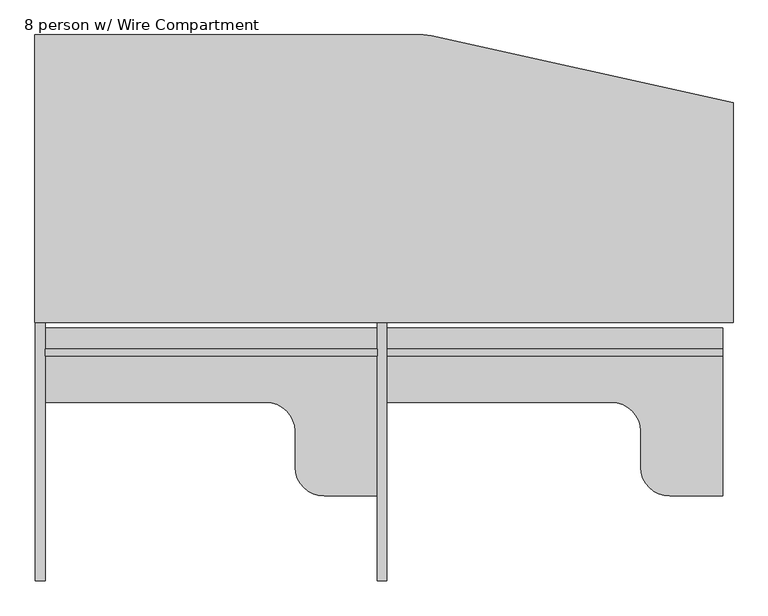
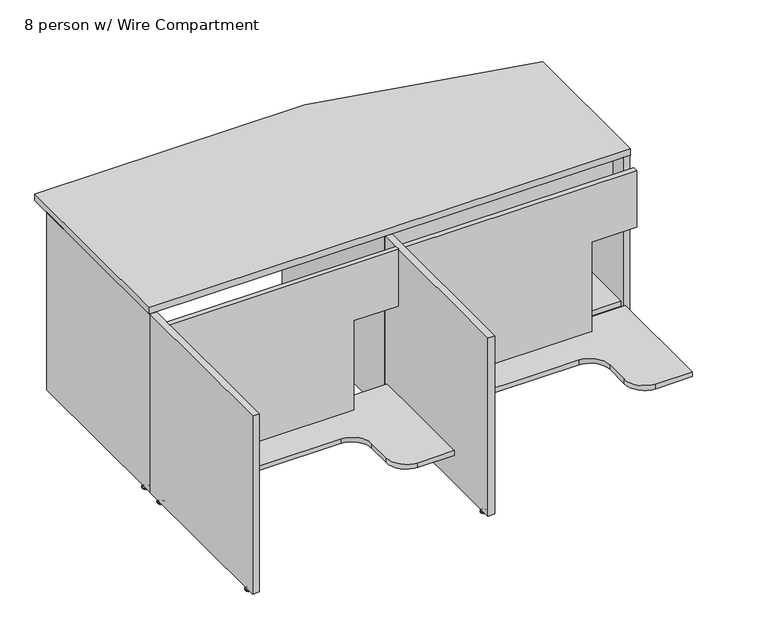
"""IFC4 building model written with IfcOpenShell, lengths in millimetres: furniture geometry, Nova Solutions - Collaboration Table - Boat_6-8 person : 8 person w/ Wire Compartment."""

from ifc_helpers import new_model, si_unit, point, frame, frame_2d, origin, place, context, project, spatial, polyline, circle_curve, ellipse_curve, trimmed, segment, composite_curve, outline, extrude, source, transform, mapped, element, save
from ifc_brep_helpers import plane_surface, cylinder_surface, revolved_surface, advanced_brep


def furniture_8_person_w_wire_compartment_190e666a(model_context):
    return source(origin(), model_context, "Body", "SolidModel", [
        advanced_brep(
        [(-906.7036506, 50.4140625, 11.1125), (-893.3483494, 50.4140625, 11.1125), (-900.026, 50.4140625, 11.1125), (-906.7036506, 50.4140625, 9.525), (-893.3483494, 50.4140625, 9.525), (-911.9115135, 50.4140625, 4.7748687), (-888.1404865, 50.4140625, 4.7748687), (-912.7726506, 50.4140625, 3.989419), (-887.2793494, 50.4140625, 3.989419), (-912.7726506, 50.4140625, 3.175), (-887.2793494, 50.4140625, 3.175), (-911.9219119, 50.4140625, 0.0), (-888.1300881, 50.4140625, 0.0), (-900.026, 50.4140625, 0.0)],
        [
            (0, 1, circle_curve(frame((-900.026, 50.4140625, 11.1125), z_axis=(0.0, 0.0, 1.0), x_axis=(1.0, 0.0, 0.0)), 6.6776506)),
            (1, 2),
            (2, 0),
            (1, 0, circle_curve(frame((-900.026, 50.4140625, 11.1125), z_axis=(0.0, 0.0, 1.0), x_axis=(1.0, 0.0, 0.0)), 6.6776506)),
            (3, 4, circle_curve(frame((-900.026, 50.4140625, 9.525), z_axis=(0.0, 0.0, 1.0), x_axis=(1.0, 0.0, 0.0)), 6.6776506)),
            (4, 1),
            (0, 3),
            (4, 3, circle_curve(frame((-900.026, 50.4140625, 9.525), z_axis=(0.0, 0.0, 1.0), x_axis=(1.0, 0.0, 0.0)), 6.6776506)),
            (5, 6, circle_curve(frame((-900.026, 50.4140625, 4.7748687), z_axis=(0.0, 0.0, 1.0), x_axis=(1.0, 0.0, 0.0)), 11.8855135)),
            (6, 4, circle_curve(frame((-887.0939373, 50.4140625, 11.1521822), z_axis=(0.0, 1.0, 0.0), x_axis=(-1.0, 0.0, 0.0)), 6.462615)),
            (3, 5, circle_curve(frame((-912.9580627, 50.4140625, 11.1521822), z_axis=(0.0, 1.0, 0.0), x_axis=(1.0, 0.0, 0.0)), 6.462615)),
            (6, 5, circle_curve(frame((-900.026, 50.4140625, 4.7748687), z_axis=(0.0, 0.0, 1.0), x_axis=(1.0, 0.0, 0.0)), 11.8855135)),
            (7, 8, circle_curve(frame((-900.026, 50.4140625, 3.989419), z_axis=(0.0, 0.0, 1.0), x_axis=(1.0, 0.0, 0.0)), 12.7466506)),
            (8, 6, circle_curve(frame((-888.3135368, 50.4140625, 3.7203591), z_axis=(0.0, -1.0, 0.0), x_axis=(-1.0, 0.0, 0.0)), 1.0686145)),
            (5, 7, circle_curve(frame((-911.7384632, 50.4140625, 3.7203591), z_axis=(0.0, -1.0, 0.0), x_axis=(1.0, 0.0, 0.0)), 1.0686145)),
            (8, 7, circle_curve(frame((-900.026, 50.4140625, 3.989419), z_axis=(0.0, 0.0, 1.0), x_axis=(1.0, 0.0, 0.0)), 12.7466506)),
            (9, 10, circle_curve(frame((-900.026, 50.4140625, 3.175), z_axis=(0.0, 0.0, 1.0), x_axis=(1.0, 0.0, 0.0)), 12.7466506)),
            (10, 8),
            (7, 9),
            (10, 9, circle_curve(frame((-900.026, 50.4140625, 3.175), z_axis=(0.0, 0.0, 1.0), x_axis=(1.0, 0.0, 0.0)), 12.7466506)),
            (11, 12, circle_curve(frame((-900.026, 50.4140625, 0.0), z_axis=(0.0, 0.0, 1.0), x_axis=(1.0, 0.0, 0.0)), 11.8959119)),
            (12, 10),
            (9, 11),
            (12, 11, circle_curve(frame((-900.026, 50.4140625, 0.0), z_axis=(0.0, 0.0, 1.0), x_axis=(1.0, 0.0, 0.0)), 11.8959119)),
            (13, 12),
            (11, 13),
        ],
        [
            plane_surface(frame((-900.026, 50.4140625, 11.1125), z_axis=(0.0, 0.0, 1.0), x_axis=(1.0, 0.0, 0.0))),
            cylinder_surface(frame((-900.026, 50.4140625, 43.2095994), z_axis=(0.0, 0.0, -1.0), x_axis=(1.0, 0.0, 0.0)), 6.6776506),
            revolved_surface(trimmed(ellipse_curve(frame((-887.0939373, 50.4140625, 11.1521822), z_axis=(0.0, -1.0, 0.0), x_axis=(-1.0, 0.0, 0.0)), 6.462615, 6.462615), [point((-893.3483494, 50.4140625, 9.525))], [point((-888.1404865, 50.4140625, 4.7748687))], True, "CARTESIAN"), (-900.026, 50.4140625, 43.2095994), (0.0, 0.0, -1.0)),
            revolved_surface(trimmed(ellipse_curve(frame((-888.3135368, 50.4140625, 3.7203591), z_axis=(0.0, 1.0, 0.0), x_axis=(-1.0, 0.0, 0.0)), 1.0686145, 1.0686145), [point((-888.1404865, 50.4140625, 4.7748687))], [point((-887.2793494, 50.4140625, 3.989419))], True, "CARTESIAN"), (-900.026, 50.4140625, 43.2095994), (0.0, 0.0, -1.0)),
            cylinder_surface(frame((-900.026, 50.4140625, 43.2095994), z_axis=(0.0, 0.0, -1.0), x_axis=(1.0, 0.0, 0.0)), 12.7466506),
            revolved_surface(polyline([(-887.2793494, 50.4140625, 3.175), (-888.1300881, 50.4140625, 0.0)]), (-900.026, 50.4140625, 43.2095994), (0.0, 0.0, -1.0)),
            plane_surface(frame((-900.026, 50.4140625, 0.0), z_axis=(0.0, 0.0, -1.0), x_axis=(1.0, 0.0, 0.0))),
        ],
        [
            (0, [[1, 2, 3]]),
            (0, [[4, -3, -2]]),
            (1, [[5, 6, -1, 7]]),
            (1, [[8, -7, -4, -6]]),
            (2, [[9, 10, -5, 11]]),
            (2, [[12, -11, -8, -10]]),
            (3, [[13, 14, -9, 15]]),
            (3, [[16, -15, -12, -14]]),
            (4, [[17, 18, -13, 19]]),
            (4, [[20, -19, -16, -18]]),
            (5, [[21, 22, -17, 23]]),
            (5, [[24, -23, -20, -22]]),
            (6, [[25, -21, 26]]),
            (6, [[-26, -24, -25]]),
        ],
    ),
        extrude(outline(polyline([(-912.876, 1.4), (-912.876, 680.4), (-887.176, 680.4), (-887.176, 1.4), (-912.876, 1.4)])), frame((0.0, 0.0, 15.6), z_axis=(0.0, 0.0, 1.0), x_axis=(1.0, 0.0, 0.0)), (0.0, 0.0, 1.0), 720.7),
        advanced_brep(
        [(6.6776506, 631.3859375, 11.1125), (0.0, 631.3859375, 11.1125), (-6.6776506, 631.3859375, 11.1125), (6.6776506, 631.3859375, 9.525), (-6.6776506, 631.3859375, 9.525), (11.8855135, 631.3859375, 4.7748687), (-11.8855135, 631.3859375, 4.7748687), (12.7466506, 631.3859375, 3.989419), (-12.7466506, 631.3859375, 3.989419), (12.7466506, 631.3859375, 3.175), (-12.7466506, 631.3859375, 3.175), (11.8959119, 631.3859375, 0.0), (-11.8959119, 631.3859375, 0.0), (0.0, 631.3859375, 0.0)],
        [
            (0, 1),
            (1, 2),
            (2, 0, circle_curve(frame((0.0, 631.3859375, 11.1125), z_axis=(0.0, 0.0, 1.0), x_axis=(-1.0, 0.0, 0.0)), 6.6776506)),
            (0, 2, circle_curve(frame((0.0, 631.3859375, 11.1125), z_axis=(0.0, 0.0, 1.0), x_axis=(-1.0, 0.0, 0.0)), 6.6776506)),
            (3, 0),
            (2, 4),
            (4, 3, circle_curve(frame((0.0, 631.3859375, 9.525), z_axis=(0.0, 0.0, 1.0), x_axis=(-1.0, 0.0, 0.0)), 6.6776506)),
            (3, 4, circle_curve(frame((0.0, 631.3859375, 9.525), z_axis=(0.0, 0.0, 1.0), x_axis=(-1.0, 0.0, 0.0)), 6.6776506)),
            (5, 3, circle_curve(frame((12.9320627, 631.3859375, 11.1521822), z_axis=(0.0, 1.0, 0.0), x_axis=(-1.0, 0.0, 0.0)), 6.462615)),
            (4, 6, circle_curve(frame((-12.9320627, 631.3859375, 11.1521822), z_axis=(0.0, 1.0, 0.0), x_axis=(1.0, 0.0, 0.0)), 6.462615)),
            (6, 5, circle_curve(frame((0.0, 631.3859375, 4.7748687), z_axis=(0.0, 0.0, 1.0), x_axis=(-1.0, 0.0, 0.0)), 11.8855135)),
            (5, 6, circle_curve(frame((0.0, 631.3859375, 4.7748687), z_axis=(0.0, 0.0, 1.0), x_axis=(-1.0, 0.0, 0.0)), 11.8855135)),
            (7, 5, circle_curve(frame((11.7124632, 631.3859375, 3.7203591), z_axis=(0.0, -1.0, 0.0), x_axis=(-1.0, 0.0, 0.0)), 1.0686145)),
            (6, 8, circle_curve(frame((-11.7124632, 631.3859375, 3.7203591), z_axis=(0.0, -1.0, 0.0), x_axis=(1.0, 0.0, 0.0)), 1.0686145)),
            (8, 7, circle_curve(frame((0.0, 631.3859375, 3.989419), z_axis=(0.0, 0.0, 1.0), x_axis=(-1.0, 0.0, 0.0)), 12.7466506)),
            (7, 8, circle_curve(frame((0.0, 631.3859375, 3.989419), z_axis=(0.0, 0.0, 1.0), x_axis=(-1.0, 0.0, 0.0)), 12.7466506)),
            (9, 7),
            (8, 10),
            (10, 9, circle_curve(frame((0.0, 631.3859375, 3.175), z_axis=(0.0, 0.0, 1.0), x_axis=(-1.0, 0.0, 0.0)), 12.7466506)),
            (9, 10, circle_curve(frame((0.0, 631.3859375, 3.175), z_axis=(0.0, 0.0, 1.0), x_axis=(-1.0, 0.0, 0.0)), 12.7466506)),
            (11, 9),
            (10, 12),
            (12, 11, circle_curve(frame((0.0, 631.3859375, 0.0), z_axis=(0.0, 0.0, 1.0), x_axis=(-1.0, 0.0, 0.0)), 11.8959119)),
            (11, 12, circle_curve(frame((0.0, 631.3859375, 0.0), z_axis=(0.0, 0.0, 1.0), x_axis=(-1.0, 0.0, 0.0)), 11.8959119)),
            (13, 11),
            (12, 13),
        ],
        [
            plane_surface(frame((0.0, 631.3859375, 11.1125), z_axis=(0.0, 0.0, 1.0), x_axis=(-1.0, 0.0, 0.0))),
            cylinder_surface(frame((0.0, 631.3859375, 43.2095994), z_axis=(0.0, 0.0, -1.0), x_axis=(-1.0, 0.0, 0.0)), 6.6776506),
            revolved_surface(trimmed(ellipse_curve(frame((-12.9320627, 631.3859375, 11.1521822), z_axis=(0.0, 1.0, 0.0), x_axis=(1.0, 0.0, 0.0)), 6.462615, 6.462615), [point((-6.6776506, 631.3859375, 9.525))], [point((-11.8855135, 631.3859375, 4.7748687))], True, "CARTESIAN"), (0.0, 631.3859375, 43.2095994), (0.0, 0.0, -1.0)),
            revolved_surface(trimmed(ellipse_curve(frame((-11.7124632, 631.3859375, 3.7203591), z_axis=(0.0, -1.0, 0.0), x_axis=(1.0, 0.0, 0.0)), 1.0686145, 1.0686145), [point((-11.8855135, 631.3859375, 4.7748687))], [point((-12.7466506, 631.3859375, 3.989419))], True, "CARTESIAN"), (0.0, 631.3859375, 43.2095994), (0.0, 0.0, -1.0)),
            cylinder_surface(frame((0.0, 631.3859375, 43.2095994), z_axis=(0.0, 0.0, -1.0), x_axis=(-1.0, 0.0, 0.0)), 12.7466506),
            revolved_surface(polyline([(-12.7466506, 631.3859375, 3.175), (-11.8959119, 631.3859375, 0.0)]), (0.0, 631.3859375, 43.2095994), (0.0, 0.0, -1.0)),
            plane_surface(frame((0.0, 631.3859375, 0.0), z_axis=(0.0, 0.0, -1.0), x_axis=(-1.0, 0.0, 0.0))),
        ],
        [
            (0, [[1, 2, 3]]),
            (0, [[-2, -1, 4]]),
            (1, [[5, -3, 6, 7]]),
            (1, [[-6, -4, -5, 8]]),
            (2, [[9, -7, 10, 11]]),
            (2, [[-10, -8, -9, 12]]),
            (3, [[13, -11, 14, 15]]),
            (3, [[-14, -12, -13, 16]]),
            (4, [[17, -15, 18, 19]]),
            (4, [[-18, -16, -17, 20]]),
            (5, [[21, -19, 22, 23]]),
            (5, [[-22, -20, -21, 24]]),
            (6, [[25, -23, 26]]),
            (6, [[-26, -24, -25]]),
        ],
    ),
        advanced_brep(
        [(6.6776506, 50.4140625, 11.1125), (0.0, 50.4140625, 11.1125), (-6.6776506, 50.4140625, 11.1125), (6.6776506, 50.4140625, 9.525), (-6.6776506, 50.4140625, 9.525), (11.8855135, 50.4140625, 4.7748687), (-11.8855135, 50.4140625, 4.7748687), (12.7466506, 50.4140625, 3.989419), (-12.7466506, 50.4140625, 3.989419), (12.7466506, 50.4140625, 3.175), (-12.7466506, 50.4140625, 3.175), (11.8959119, 50.4140625, 0.0), (-11.8959119, 50.4140625, 0.0), (0.0, 50.4140625, 0.0)],
        [
            (0, 1),
            (1, 2),
            (2, 0, circle_curve(frame((0.0, 50.4140625, 11.1125), z_axis=(0.0, 0.0, 1.0), x_axis=(-1.0, 0.0, 0.0)), 6.6776506)),
            (0, 2, circle_curve(frame((0.0, 50.4140625, 11.1125), z_axis=(0.0, 0.0, 1.0), x_axis=(-1.0, 0.0, 0.0)), 6.6776506)),
            (3, 0),
            (2, 4),
            (4, 3, circle_curve(frame((0.0, 50.4140625, 9.525), z_axis=(0.0, 0.0, 1.0), x_axis=(-1.0, 0.0, 0.0)), 6.6776506)),
            (3, 4, circle_curve(frame((0.0, 50.4140625, 9.525), z_axis=(0.0, 0.0, 1.0), x_axis=(-1.0, 0.0, 0.0)), 6.6776506)),
            (5, 3, circle_curve(frame((12.9320627, 50.4140625, 11.1521822), z_axis=(0.0, 1.0, 0.0), x_axis=(-1.0, 0.0, 0.0)), 6.462615)),
            (4, 6, circle_curve(frame((-12.9320627, 50.4140625, 11.1521822), z_axis=(0.0, 1.0, 0.0), x_axis=(1.0, 0.0, 0.0)), 6.462615)),
            (6, 5, circle_curve(frame((0.0, 50.4140625, 4.7748687), z_axis=(0.0, 0.0, 1.0), x_axis=(-1.0, 0.0, 0.0)), 11.8855135)),
            (5, 6, circle_curve(frame((0.0, 50.4140625, 4.7748687), z_axis=(0.0, 0.0, 1.0), x_axis=(-1.0, 0.0, 0.0)), 11.8855135)),
            (7, 5, circle_curve(frame((11.7124632, 50.4140625, 3.7203591), z_axis=(0.0, -1.0, 0.0), x_axis=(-1.0, 0.0, 0.0)), 1.0686145)),
            (6, 8, circle_curve(frame((-11.7124632, 50.4140625, 3.7203591), z_axis=(0.0, -1.0, 0.0), x_axis=(1.0, 0.0, 0.0)), 1.0686145)),
            (8, 7, circle_curve(frame((0.0, 50.4140625, 3.989419), z_axis=(0.0, 0.0, 1.0), x_axis=(-1.0, 0.0, 0.0)), 12.7466506)),
            (7, 8, circle_curve(frame((0.0, 50.4140625, 3.989419), z_axis=(0.0, 0.0, 1.0), x_axis=(-1.0, 0.0, 0.0)), 12.7466506)),
            (9, 7),
            (8, 10),
            (10, 9, circle_curve(frame((0.0, 50.4140625, 3.175), z_axis=(0.0, 0.0, 1.0), x_axis=(-1.0, 0.0, 0.0)), 12.7466506)),
            (9, 10, circle_curve(frame((0.0, 50.4140625, 3.175), z_axis=(0.0, 0.0, 1.0), x_axis=(-1.0, 0.0, 0.0)), 12.7466506)),
            (11, 9),
            (10, 12),
            (12, 11, circle_curve(frame((0.0, 50.4140625, 0.0), z_axis=(0.0, 0.0, 1.0), x_axis=(-1.0, 0.0, 0.0)), 11.8959119)),
            (11, 12, circle_curve(frame((0.0, 50.4140625, 0.0), z_axis=(0.0, 0.0, 1.0), x_axis=(-1.0, 0.0, 0.0)), 11.8959119)),
            (13, 11),
            (12, 13),
        ],
        [
            plane_surface(frame((0.0, 50.4140625, 11.1125), z_axis=(0.0, 0.0, 1.0), x_axis=(-1.0, 0.0, 0.0))),
            cylinder_surface(frame((0.0, 50.4140625, 43.2095994), z_axis=(0.0, 0.0, -1.0), x_axis=(-1.0, 0.0, 0.0)), 6.6776506),
            revolved_surface(trimmed(ellipse_curve(frame((-12.9320627, 50.4140625, 11.1521822), z_axis=(0.0, 1.0, 0.0), x_axis=(1.0, 0.0, 0.0)), 6.462615, 6.462615), [point((-6.6776506, 50.4140625, 9.525))], [point((-11.8855135, 50.4140625, 4.7748687))], True, "CARTESIAN"), (0.0, 50.4140625, 43.2095994), (0.0, 0.0, -1.0)),
            revolved_surface(trimmed(ellipse_curve(frame((-11.7124632, 50.4140625, 3.7203591), z_axis=(0.0, -1.0, 0.0), x_axis=(1.0, 0.0, 0.0)), 1.0686145, 1.0686145), [point((-11.8855135, 50.4140625, 4.7748687))], [point((-12.7466506, 50.4140625, 3.989419))], True, "CARTESIAN"), (0.0, 50.4140625, 43.2095994), (0.0, 0.0, -1.0)),
            cylinder_surface(frame((0.0, 50.4140625, 43.2095994), z_axis=(0.0, 0.0, -1.0), x_axis=(-1.0, 0.0, 0.0)), 12.7466506),
            revolved_surface(polyline([(-12.7466506, 50.4140625, 3.175), (-11.8959119, 50.4140625, 0.0)]), (0.0, 50.4140625, 43.2095994), (0.0, 0.0, -1.0)),
            plane_surface(frame((0.0, 50.4140625, 0.0), z_axis=(0.0, 0.0, -1.0), x_axis=(-1.0, 0.0, 0.0))),
        ],
        [
            (0, [[1, 2, 3]]),
            (0, [[-2, -1, 4]]),
            (1, [[5, -3, 6, 7]]),
            (1, [[-6, -4, -5, 8]]),
            (2, [[9, -7, 10, 11]]),
            (2, [[-10, -8, -9, 12]]),
            (3, [[13, -11, 14, 15]]),
            (3, [[-14, -12, -13, 16]]),
            (4, [[17, -15, 18, 19]]),
            (4, [[-18, -16, -17, 20]]),
            (5, [[21, -19, 22, 23]]),
            (5, [[-22, -20, -21, 24]]),
            (6, [[25, -23, 26]]),
            (6, [[-26, -24, -25]]),
        ],
    ),
        extrude(outline(polyline([(12.85, 1.4), (-12.85, 1.4), (-12.85, 680.4), (12.85, 680.4), (12.85, 1.4)])), frame((0.0, 0.0, 15.6), z_axis=(0.0, 0.0, 1.0), x_axis=(1.0, 0.0, 0.0)), (0.0, 0.0, 1.0), 720.7),
        extrude(outline(polyline([(736.3, 12.85), (145.5, 12.85), (145.5, 726.15), (507.4, 726.15), (507.4, 897.15), (736.3, 897.15), (736.3, 12.85)])), frame((0.0, 69.4, 0.0), z_axis=(0.0, 1.0, 0.0), x_axis=(0.0, 0.0, 1.0)), (0.0, 0.0, 1.0), 19.2),
        extrude(outline(composite_curve([segment(polyline([(897.15, 457.2625), (897.15, 14.1), (12.85, 14.1), (12.85, 210.4), (604.95, 210.4)]), True, "CONTINUOUS"), segment(trimmed(circle_curve(frame_2d((604.95, 286.6)), 76.2), [point((604.95, 210.4))], [point((681.15, 286.6))], True, "CARTESIAN"), True, "CONTINUOUS"), segment(polyline([(681.15, 286.6), (681.15, 381.0625)]), True, "CONTINUOUS"), segment(trimmed(circle_curve(frame_2d((757.35, 381.0625)), 76.2), [point((681.15, 381.0625))], [point((757.35, 457.2625))], False, "CARTESIAN"), True, "CONTINUOUS"), segment(polyline([(757.35, 457.2625), (897.15, 457.2625)]), True, "CONTINUOUS")], self_intersect=False)), frame((0.0, 0.0, 126.3), z_axis=(0.0, 0.0, 1.0), x_axis=(1.0, 0.0, 0.0)), (0.0, 0.0, 1.0), 19.2),
        advanced_brep(
        [(916.6776506, 448.9859375, 11.1125), (910.0, 448.9859375, 11.1125), (903.3223494, 448.9859375, 11.1125), (916.6776506, 448.9859375, 9.525), (903.3223494, 448.9859375, 9.525), (921.8855135, 448.9859375, 4.7748687), (898.1144865, 448.9859375, 4.7748687), (922.7466506, 448.9859375, 3.989419), (897.2533494, 448.9859375, 3.989419), (922.7466506, 448.9859375, 3.175), (897.2533494, 448.9859375, 3.175), (921.8959119, 448.9859375, 0.0), (898.1040881, 448.9859375, 0.0), (910.0, 448.9859375, 0.0)],
        [
            (0, 1),
            (1, 2),
            (2, 0, circle_curve(frame((910.0, 448.9859375, 11.1125), z_axis=(0.0, 0.0, 1.0), x_axis=(-1.0, 0.0, 0.0)), 6.6776506)),
            (0, 2, circle_curve(frame((910.0, 448.9859375, 11.1125), z_axis=(0.0, 0.0, 1.0), x_axis=(-1.0, 0.0, 0.0)), 6.6776506)),
            (3, 0),
            (2, 4),
            (4, 3, circle_curve(frame((910.0, 448.9859375, 9.525), z_axis=(0.0, 0.0, 1.0), x_axis=(-1.0, 0.0, 0.0)), 6.6776506)),
            (3, 4, circle_curve(frame((910.0, 448.9859375, 9.525), z_axis=(0.0, 0.0, 1.0), x_axis=(-1.0, 0.0, 0.0)), 6.6776506)),
            (5, 3, circle_curve(frame((922.9320627, 448.9859375, 11.1521822), z_axis=(0.0, 1.0, 0.0), x_axis=(-1.0, 0.0, 0.0)), 6.462615)),
            (4, 6, circle_curve(frame((897.0679373, 448.9859375, 11.1521822), z_axis=(0.0, 1.0, 0.0), x_axis=(1.0, 0.0, 0.0)), 6.462615)),
            (6, 5, circle_curve(frame((910.0, 448.9859375, 4.7748687), z_axis=(0.0, 0.0, 1.0), x_axis=(-1.0, 0.0, 0.0)), 11.8855135)),
            (5, 6, circle_curve(frame((910.0, 448.9859375, 4.7748687), z_axis=(0.0, 0.0, 1.0), x_axis=(-1.0, 0.0, 0.0)), 11.8855135)),
            (7, 5, circle_curve(frame((921.7124632, 448.9859375, 3.7203591), z_axis=(0.0, -1.0, 0.0), x_axis=(-1.0, 0.0, 0.0)), 1.0686145)),
            (6, 8, circle_curve(frame((898.2875368, 448.9859375, 3.7203591), z_axis=(0.0, -1.0, 0.0), x_axis=(1.0, 0.0, 0.0)), 1.0686145)),
            (8, 7, circle_curve(frame((910.0, 448.9859375, 3.989419), z_axis=(0.0, 0.0, 1.0), x_axis=(-1.0, 0.0, 0.0)), 12.7466506)),
            (7, 8, circle_curve(frame((910.0, 448.9859375, 3.989419), z_axis=(0.0, 0.0, 1.0), x_axis=(-1.0, 0.0, 0.0)), 12.7466506)),
            (9, 7),
            (8, 10),
            (10, 9, circle_curve(frame((910.0, 448.9859375, 3.175), z_axis=(0.0, 0.0, 1.0), x_axis=(-1.0, 0.0, 0.0)), 12.7466506)),
            (9, 10, circle_curve(frame((910.0, 448.9859375, 3.175), z_axis=(0.0, 0.0, 1.0), x_axis=(-1.0, 0.0, 0.0)), 12.7466506)),
            (11, 9),
            (10, 12),
            (12, 11, circle_curve(frame((910.0, 448.9859375, 0.0), z_axis=(0.0, 0.0, 1.0), x_axis=(-1.0, 0.0, 0.0)), 11.8959119)),
            (11, 12, circle_curve(frame((910.0, 448.9859375, 0.0), z_axis=(0.0, 0.0, 1.0), x_axis=(-1.0, 0.0, 0.0)), 11.8959119)),
            (13, 11),
            (12, 13),
        ],
        [
            plane_surface(frame((910.0, 448.9859375, 11.1125), z_axis=(0.0, 0.0, 1.0), x_axis=(-1.0, 0.0, 0.0))),
            cylinder_surface(frame((910.0, 448.9859375, 43.2095994), z_axis=(0.0, 0.0, -1.0), x_axis=(-1.0, 0.0, 0.0)), 6.6776506),
            revolved_surface(trimmed(ellipse_curve(frame((897.0679373, 448.9859375, 11.1521822), z_axis=(0.0, 1.0, 0.0), x_axis=(1.0, 0.0, 0.0)), 6.462615, 6.462615), [point((903.3223494, 448.9859375, 9.525))], [point((898.1144865, 448.9859375, 4.7748687))], True, "CARTESIAN"), (910.0, 448.9859375, 43.2095994), (0.0, 0.0, -1.0)),
            revolved_surface(trimmed(ellipse_curve(frame((898.2875368, 448.9859375, 3.7203591), z_axis=(0.0, -1.0, 0.0), x_axis=(1.0, 0.0, 0.0)), 1.0686145, 1.0686145), [point((898.1144865, 448.9859375, 4.7748687))], [point((897.2533494, 448.9859375, 3.989419))], True, "CARTESIAN"), (910.0, 448.9859375, 43.2095994), (0.0, 0.0, -1.0)),
            cylinder_surface(frame((910.0, 448.9859375, 43.2095994), z_axis=(0.0, 0.0, -1.0), x_axis=(-1.0, 0.0, 0.0)), 12.7466506),
            revolved_surface(polyline([(897.2533494, 448.9859375, 3.175), (898.1040881, 448.9859375, 0.0)]), (910.0, 448.9859375, 43.2095994), (0.0, 0.0, -1.0)),
            plane_surface(frame((910.0, 448.9859375, 0.0), z_axis=(0.0, 0.0, -1.0), x_axis=(-1.0, 0.0, 0.0))),
        ],
        [
            (0, [[1, 2, 3]]),
            (0, [[-2, -1, 4]]),
            (1, [[5, -3, 6, 7]]),
            (1, [[-6, -4, -5, 8]]),
            (2, [[9, -7, 10, 11]]),
            (2, [[-10, -8, -9, 12]]),
            (3, [[13, -11, 14, 15]]),
            (3, [[-14, -12, -13, 16]]),
            (4, [[17, -15, 18, 19]]),
            (4, [[-18, -16, -17, 20]]),
            (5, [[21, -19, 22, 23]]),
            (5, [[-22, -20, -21, 24]]),
            (6, [[25, -23, 26]]),
            (6, [[-26, -24, -25]]),
        ],
    ),
        advanced_brep(
        [(916.6776506, 50.4140625, 11.1125), (910.0, 50.4140625, 11.1125), (903.3223494, 50.4140625, 11.1125), (916.6776506, 50.4140625, 9.525), (903.3223494, 50.4140625, 9.525), (921.8855135, 50.4140625, 4.7748687), (898.1144865, 50.4140625, 4.7748687), (922.7466506, 50.4140625, 3.989419), (897.2533494, 50.4140625, 3.989419), (922.7466506, 50.4140625, 3.175), (897.2533494, 50.4140625, 3.175), (921.8959119, 50.4140625, 0.0), (898.1040881, 50.4140625, 0.0), (910.0, 50.4140625, 0.0)],
        [
            (0, 1),
            (1, 2),
            (2, 0, circle_curve(frame((910.0, 50.4140625, 11.1125), z_axis=(0.0, 0.0, 1.0), x_axis=(-1.0, 0.0, 0.0)), 6.6776506)),
            (0, 2, circle_curve(frame((910.0, 50.4140625, 11.1125), z_axis=(0.0, 0.0, 1.0), x_axis=(-1.0, 0.0, 0.0)), 6.6776506)),
            (3, 0),
            (2, 4),
            (4, 3, circle_curve(frame((910.0, 50.4140625, 9.525), z_axis=(0.0, 0.0, 1.0), x_axis=(-1.0, 0.0, 0.0)), 6.6776506)),
            (3, 4, circle_curve(frame((910.0, 50.4140625, 9.525), z_axis=(0.0, 0.0, 1.0), x_axis=(-1.0, 0.0, 0.0)), 6.6776506)),
            (5, 3, circle_curve(frame((922.9320627, 50.4140625, 11.1521822), z_axis=(0.0, 1.0, 0.0), x_axis=(-1.0, 0.0, 0.0)), 6.462615)),
            (4, 6, circle_curve(frame((897.0679373, 50.4140625, 11.1521822), z_axis=(0.0, 1.0, 0.0), x_axis=(1.0, 0.0, 0.0)), 6.462615)),
            (6, 5, circle_curve(frame((910.0, 50.4140625, 4.7748687), z_axis=(0.0, 0.0, 1.0), x_axis=(-1.0, 0.0, 0.0)), 11.8855135)),
            (5, 6, circle_curve(frame((910.0, 50.4140625, 4.7748687), z_axis=(0.0, 0.0, 1.0), x_axis=(-1.0, 0.0, 0.0)), 11.8855135)),
            (7, 5, circle_curve(frame((921.7124632, 50.4140625, 3.7203591), z_axis=(0.0, -1.0, 0.0), x_axis=(-1.0, 0.0, 0.0)), 1.0686145)),
            (6, 8, circle_curve(frame((898.2875368, 50.4140625, 3.7203591), z_axis=(0.0, -1.0, 0.0), x_axis=(1.0, 0.0, 0.0)), 1.0686145)),
            (8, 7, circle_curve(frame((910.0, 50.4140625, 3.989419), z_axis=(0.0, 0.0, 1.0), x_axis=(-1.0, 0.0, 0.0)), 12.7466506)),
            (7, 8, circle_curve(frame((910.0, 50.4140625, 3.989419), z_axis=(0.0, 0.0, 1.0), x_axis=(-1.0, 0.0, 0.0)), 12.7466506)),
            (9, 7),
            (8, 10),
            (10, 9, circle_curve(frame((910.0, 50.4140625, 3.175), z_axis=(0.0, 0.0, 1.0), x_axis=(-1.0, 0.0, 0.0)), 12.7466506)),
            (9, 10, circle_curve(frame((910.0, 50.4140625, 3.175), z_axis=(0.0, 0.0, 1.0), x_axis=(-1.0, 0.0, 0.0)), 12.7466506)),
            (11, 9),
            (10, 12),
            (12, 11, circle_curve(frame((910.0, 50.4140625, 0.0), z_axis=(0.0, 0.0, 1.0), x_axis=(-1.0, 0.0, 0.0)), 11.8959119)),
            (11, 12, circle_curve(frame((910.0, 50.4140625, 0.0), z_axis=(0.0, 0.0, 1.0), x_axis=(-1.0, 0.0, 0.0)), 11.8959119)),
            (13, 11),
            (12, 13),
        ],
        [
            plane_surface(frame((910.0, 50.4140625, 11.1125), z_axis=(0.0, 0.0, 1.0), x_axis=(-1.0, 0.0, 0.0))),
            cylinder_surface(frame((910.0, 50.4140625, 43.2095994), z_axis=(0.0, 0.0, -1.0), x_axis=(-1.0, 0.0, 0.0)), 6.6776506),
            revolved_surface(trimmed(ellipse_curve(frame((897.0679373, 50.4140625, 11.1521822), z_axis=(0.0, 1.0, 0.0), x_axis=(1.0, 0.0, 0.0)), 6.462615, 6.462615), [point((903.3223494, 50.4140625, 9.525))], [point((898.1144865, 50.4140625, 4.7748687))], True, "CARTESIAN"), (910.0, 50.4140625, 43.2095994), (0.0, 0.0, -1.0)),
            revolved_surface(trimmed(ellipse_curve(frame((898.2875368, 50.4140625, 3.7203591), z_axis=(0.0, -1.0, 0.0), x_axis=(1.0, 0.0, 0.0)), 1.0686145, 1.0686145), [point((898.1144865, 50.4140625, 4.7748687))], [point((897.2533494, 50.4140625, 3.989419))], True, "CARTESIAN"), (910.0, 50.4140625, 43.2095994), (0.0, 0.0, -1.0)),
            cylinder_surface(frame((910.0, 50.4140625, 43.2095994), z_axis=(0.0, 0.0, -1.0), x_axis=(-1.0, 0.0, 0.0)), 12.7466506),
            revolved_surface(polyline([(897.2533494, 50.4140625, 3.175), (898.1040881, 50.4140625, 0.0)]), (910.0, 50.4140625, 43.2095994), (0.0, 0.0, -1.0)),
            plane_surface(frame((910.0, 50.4140625, 0.0), z_axis=(0.0, 0.0, -1.0), x_axis=(-1.0, 0.0, 0.0))),
        ],
        [
            (0, [[1, 2, 3]]),
            (0, [[-2, -1, 4]]),
            (1, [[5, -3, 6, 7]]),
            (1, [[-6, -4, -5, 8]]),
            (2, [[9, -7, 10, 11]]),
            (2, [[-10, -8, -9, 12]]),
            (3, [[13, -11, 14, 15]]),
            (3, [[-14, -12, -13, 16]]),
            (4, [[17, -15, 18, 19]]),
            (4, [[-18, -16, -17, 20]]),
            (5, [[21, -19, 22, 23]]),
            (5, [[-22, -20, -21, 24]]),
            (6, [[25, -23, 26]]),
            (6, [[-26, -24, -25]]),
        ],
    ),
        extrude(outline(polyline([(922.85, 1.4), (897.15, 1.4), (897.15, 498.0), (922.85, 498.0), (922.85, 1.4)])), frame((0.0, 0.0, 15.6), z_axis=(0.0, 0.0, 1.0), x_axis=(1.0, 0.0, 0.0)), (0.0, 0.0, 1.0), 720.7),
        extrude(outline(composite_curve([segment(trimmed(circle_curve(frame_2d((108.0350272, 656.4)), 101.6), [point((108.0350272, 758.0))], [point((130.025292, 755.5916743))], False, "CARTESIAN"), True, "CONTINUOUS"), segment(polyline([(130.025292, 755.5916743), (924.25, 579.5162956), (924.25, 0.0), (-914.276, 0.0), (-914.276, 758.0), (108.0350272, 758.0)]), True, "CONTINUOUS")], self_intersect=False)), frame((0.0, 0.0, 736.3), z_axis=(0.0, 0.0, 1.0), x_axis=(1.0, 0.0, 0.0)), (0.0, 0.0, 1.0), 25.7),
        extrude(outline(polyline([(736.3, -887.176), (145.5, -887.176), (145.5, -183.85), (507.4, -183.85), (507.4, -12.85), (736.3, -12.85), (736.3, -887.176)])), frame((0.0, -88.6, 0.0), z_axis=(0.0, 1.0, 0.0), x_axis=(0.0, 0.0, 1.0)), (0.0, 0.0, 1.0), 19.2),
        extrude(outline(composite_curve([segment(polyline([(-887.176, -14.1), (-12.85, -14.1), (-12.85, -457.2625), (-152.65, -457.2625)]), True, "CONTINUOUS"), segment(trimmed(circle_curve(frame_2d((-152.65, -381.0625)), 76.2), [point((-152.65, -457.2625))], [point((-228.85, -381.0625))], False, "CARTESIAN"), True, "CONTINUOUS"), segment(polyline([(-228.85, -381.0625), (-228.85, -286.6)]), True, "CONTINUOUS"), segment(trimmed(circle_curve(frame_2d((-305.05, -286.6)), 76.2), [point((-228.85, -286.6))], [point((-305.05, -210.4))], True, "CARTESIAN"), True, "CONTINUOUS"), segment(polyline([(-305.05, -210.4), (-887.176, -210.4), (-887.176, -14.1)]), True, "CONTINUOUS")], self_intersect=False)), frame((0.0, 0.0, 126.3), z_axis=(0.0, 0.0, 1.0), x_axis=(1.0, 0.0, 0.0)), (0.0, 0.0, 1.0), 19.2),
        advanced_brep(
        [(-906.7036506, -631.3859375, 11.1125), (-900.026, -631.3859375, 11.1125), (-893.3483494, -631.3859375, 11.1125), (-906.7036506, -631.3859375, 9.525), (-893.3483494, -631.3859375, 9.525), (-911.9115135, -631.3859375, 4.7748687), (-888.1404865, -631.3859375, 4.7748687), (-912.7726506, -631.3859375, 3.989419), (-887.2793494, -631.3859375, 3.989419), (-912.7726506, -631.3859375, 3.175), (-887.2793494, -631.3859375, 3.175), (-911.9219119, -631.3859375, 0.0), (-888.1300881, -631.3859375, 0.0), (-900.026, -631.3859375, 0.0)],
        [
            (0, 1),
            (1, 2),
            (2, 0, circle_curve(frame((-900.026, -631.3859375, 11.1125), z_axis=(0.0, 0.0, 1.0), x_axis=(1.0, 0.0, 0.0)), 6.6776506)),
            (0, 2, circle_curve(frame((-900.026, -631.3859375, 11.1125), z_axis=(0.0, 0.0, 1.0), x_axis=(1.0, 0.0, 0.0)), 6.6776506)),
            (3, 0),
            (2, 4),
            (4, 3, circle_curve(frame((-900.026, -631.3859375, 9.525), z_axis=(0.0, 0.0, 1.0), x_axis=(1.0, 0.0, 0.0)), 6.6776506)),
            (3, 4, circle_curve(frame((-900.026, -631.3859375, 9.525), z_axis=(0.0, 0.0, 1.0), x_axis=(1.0, 0.0, 0.0)), 6.6776506)),
            (5, 3, circle_curve(frame((-912.9580627, -631.3859375, 11.1521822), z_axis=(0.0, -1.0, 0.0), x_axis=(1.0, 0.0, 0.0)), 6.462615)),
            (4, 6, circle_curve(frame((-887.0939373, -631.3859375, 11.1521822), z_axis=(0.0, -1.0, 0.0), x_axis=(-1.0, 0.0, 0.0)), 6.462615)),
            (6, 5, circle_curve(frame((-900.026, -631.3859375, 4.7748687), z_axis=(0.0, 0.0, 1.0), x_axis=(1.0, 0.0, 0.0)), 11.8855135)),
            (5, 6, circle_curve(frame((-900.026, -631.3859375, 4.7748687), z_axis=(0.0, 0.0, 1.0), x_axis=(1.0, 0.0, 0.0)), 11.8855135)),
            (7, 5, circle_curve(frame((-911.7384632, -631.3859375, 3.7203591), z_axis=(0.0, 1.0, 0.0), x_axis=(1.0, 0.0, 0.0)), 1.0686145)),
            (6, 8, circle_curve(frame((-888.3135368, -631.3859375, 3.7203591), z_axis=(0.0, 1.0, 0.0), x_axis=(-1.0, 0.0, 0.0)), 1.0686145)),
            (8, 7, circle_curve(frame((-900.026, -631.3859375, 3.989419), z_axis=(0.0, 0.0, 1.0), x_axis=(1.0, 0.0, 0.0)), 12.7466506)),
            (7, 8, circle_curve(frame((-900.026, -631.3859375, 3.989419), z_axis=(0.0, 0.0, 1.0), x_axis=(1.0, 0.0, 0.0)), 12.7466506)),
            (9, 7),
            (8, 10),
            (10, 9, circle_curve(frame((-900.026, -631.3859375, 3.175), z_axis=(0.0, 0.0, 1.0), x_axis=(1.0, 0.0, 0.0)), 12.7466506)),
            (9, 10, circle_curve(frame((-900.026, -631.3859375, 3.175), z_axis=(0.0, 0.0, 1.0), x_axis=(1.0, 0.0, 0.0)), 12.7466506)),
            (11, 9),
            (10, 12),
            (12, 11, circle_curve(frame((-900.026, -631.3859375, 0.0), z_axis=(0.0, 0.0, 1.0), x_axis=(1.0, 0.0, 0.0)), 11.8959119)),
            (11, 12, circle_curve(frame((-900.026, -631.3859375, 0.0), z_axis=(0.0, 0.0, 1.0), x_axis=(1.0, 0.0, 0.0)), 11.8959119)),
            (13, 11),
            (12, 13),
        ],
        [
            plane_surface(frame((-900.026, -631.3859375, 11.1125), z_axis=(0.0, 0.0, 1.0), x_axis=(1.0, 0.0, 0.0))),
            cylinder_surface(frame((-900.026, -631.3859375, 43.2095994), z_axis=(0.0, 0.0, -1.0), x_axis=(1.0, 0.0, 0.0)), 6.6776506),
            revolved_surface(trimmed(ellipse_curve(frame((-887.0939373, -631.3859375, 11.1521822), z_axis=(0.0, -1.0, 0.0), x_axis=(-1.0, 0.0, 0.0)), 6.462615, 6.462615), [point((-893.3483494, -631.3859375, 9.525))], [point((-888.1404865, -631.3859375, 4.7748687))], True, "CARTESIAN"), (-900.026, -631.3859375, 43.2095994), (0.0, 0.0, -1.0)),
            revolved_surface(trimmed(ellipse_curve(frame((-888.3135368, -631.3859375, 3.7203591), z_axis=(0.0, 1.0, 0.0), x_axis=(-1.0, 0.0, 0.0)), 1.0686145, 1.0686145), [point((-888.1404865, -631.3859375, 4.7748687))], [point((-887.2793494, -631.3859375, 3.989419))], True, "CARTESIAN"), (-900.026, -631.3859375, 43.2095994), (0.0, 0.0, -1.0)),
            cylinder_surface(frame((-900.026, -631.3859375, 43.2095994), z_axis=(0.0, 0.0, -1.0), x_axis=(1.0, 0.0, 0.0)), 12.7466506),
            revolved_surface(polyline([(-887.2793494, -631.3859375, 3.175), (-888.1300881, -631.3859375, 0.0)]), (-900.026, -631.3859375, 43.2095994), (0.0, 0.0, -1.0)),
            plane_surface(frame((-900.026, -631.3859375, 0.0), z_axis=(0.0, 0.0, -1.0), x_axis=(1.0, 0.0, 0.0))),
        ],
        [
            (0, [[1, 2, 3]]),
            (0, [[-2, -1, 4]]),
            (1, [[5, -3, 6, 7]]),
            (1, [[-6, -4, -5, 8]]),
            (2, [[9, -7, 10, 11]]),
            (2, [[-10, -8, -9, 12]]),
            (3, [[13, -11, 14, 15]]),
            (3, [[-14, -12, -13, 16]]),
            (4, [[17, -15, 18, 19]]),
            (4, [[-18, -16, -17, 20]]),
            (5, [[21, -19, 22, 23]]),
            (5, [[-22, -20, -21, 24]]),
            (6, [[25, -23, 26]]),
            (6, [[-26, -24, -25]]),
        ],
    ),
        advanced_brep(
        [(-906.7036506, -50.4140625, 11.1125), (-900.026, -50.4140625, 11.1125), (-893.3483494, -50.4140625, 11.1125), (-906.7036506, -50.4140625, 9.525), (-893.3483494, -50.4140625, 9.525), (-911.9115135, -50.4140625, 4.7748687), (-888.1404865, -50.4140625, 4.7748687), (-912.7726506, -50.4140625, 3.989419), (-887.2793494, -50.4140625, 3.989419), (-912.7726506, -50.4140625, 3.175), (-887.2793494, -50.4140625, 3.175), (-911.9219119, -50.4140625, 0.0), (-888.1300881, -50.4140625, 0.0), (-900.026, -50.4140625, 0.0)],
        [
            (0, 1),
            (1, 2),
            (2, 0, circle_curve(frame((-900.026, -50.4140625, 11.1125), z_axis=(0.0, 0.0, 1.0), x_axis=(1.0, 0.0, 0.0)), 6.6776506)),
            (0, 2, circle_curve(frame((-900.026, -50.4140625, 11.1125), z_axis=(0.0, 0.0, 1.0), x_axis=(1.0, 0.0, 0.0)), 6.6776506)),
            (3, 0),
            (2, 4),
            (4, 3, circle_curve(frame((-900.026, -50.4140625, 9.525), z_axis=(0.0, 0.0, 1.0), x_axis=(1.0, 0.0, 0.0)), 6.6776506)),
            (3, 4, circle_curve(frame((-900.026, -50.4140625, 9.525), z_axis=(0.0, 0.0, 1.0), x_axis=(1.0, 0.0, 0.0)), 6.6776506)),
            (5, 3, circle_curve(frame((-912.9580627, -50.4140625, 11.1521822), z_axis=(0.0, -1.0, 0.0), x_axis=(1.0, 0.0, 0.0)), 6.462615)),
            (4, 6, circle_curve(frame((-887.0939373, -50.4140625, 11.1521822), z_axis=(0.0, -1.0, 0.0), x_axis=(-1.0, 0.0, 0.0)), 6.462615)),
            (6, 5, circle_curve(frame((-900.026, -50.4140625, 4.7748687), z_axis=(0.0, 0.0, 1.0), x_axis=(1.0, 0.0, 0.0)), 11.8855135)),
            (5, 6, circle_curve(frame((-900.026, -50.4140625, 4.7748687), z_axis=(0.0, 0.0, 1.0), x_axis=(1.0, 0.0, 0.0)), 11.8855135)),
            (7, 5, circle_curve(frame((-911.7384632, -50.4140625, 3.7203591), z_axis=(0.0, 1.0, 0.0), x_axis=(1.0, 0.0, 0.0)), 1.0686145)),
            (6, 8, circle_curve(frame((-888.3135368, -50.4140625, 3.7203591), z_axis=(0.0, 1.0, 0.0), x_axis=(-1.0, 0.0, 0.0)), 1.0686145)),
            (8, 7, circle_curve(frame((-900.026, -50.4140625, 3.989419), z_axis=(0.0, 0.0, 1.0), x_axis=(1.0, 0.0, 0.0)), 12.7466506)),
            (7, 8, circle_curve(frame((-900.026, -50.4140625, 3.989419), z_axis=(0.0, 0.0, 1.0), x_axis=(1.0, 0.0, 0.0)), 12.7466506)),
            (9, 7),
            (8, 10),
            (10, 9, circle_curve(frame((-900.026, -50.4140625, 3.175), z_axis=(0.0, 0.0, 1.0), x_axis=(1.0, 0.0, 0.0)), 12.7466506)),
            (9, 10, circle_curve(frame((-900.026, -50.4140625, 3.175), z_axis=(0.0, 0.0, 1.0), x_axis=(1.0, 0.0, 0.0)), 12.7466506)),
            (11, 9),
            (10, 12),
            (12, 11, circle_curve(frame((-900.026, -50.4140625, 0.0), z_axis=(0.0, 0.0, 1.0), x_axis=(1.0, 0.0, 0.0)), 11.8959119)),
            (11, 12, circle_curve(frame((-900.026, -50.4140625, 0.0), z_axis=(0.0, 0.0, 1.0), x_axis=(1.0, 0.0, 0.0)), 11.8959119)),
            (13, 11),
            (12, 13),
        ],
        [
            plane_surface(frame((-900.026, -50.4140625, 11.1125), z_axis=(0.0, 0.0, 1.0), x_axis=(1.0, 0.0, 0.0))),
            cylinder_surface(frame((-900.026, -50.4140625, 43.2095994), z_axis=(0.0, 0.0, -1.0), x_axis=(1.0, 0.0, 0.0)), 6.6776506),
            revolved_surface(trimmed(ellipse_curve(frame((-887.0939373, -50.4140625, 11.1521822), z_axis=(0.0, -1.0, 0.0), x_axis=(-1.0, 0.0, 0.0)), 6.462615, 6.462615), [point((-893.3483494, -50.4140625, 9.525))], [point((-888.1404865, -50.4140625, 4.7748687))], True, "CARTESIAN"), (-900.026, -50.4140625, 43.2095994), (0.0, 0.0, -1.0)),
            revolved_surface(trimmed(ellipse_curve(frame((-888.3135368, -50.4140625, 3.7203591), z_axis=(0.0, 1.0, 0.0), x_axis=(-1.0, 0.0, 0.0)), 1.0686145, 1.0686145), [point((-888.1404865, -50.4140625, 4.7748687))], [point((-887.2793494, -50.4140625, 3.989419))], True, "CARTESIAN"), (-900.026, -50.4140625, 43.2095994), (0.0, 0.0, -1.0)),
            cylinder_surface(frame((-900.026, -50.4140625, 43.2095994), z_axis=(0.0, 0.0, -1.0), x_axis=(1.0, 0.0, 0.0)), 12.7466506),
            revolved_surface(polyline([(-887.2793494, -50.4140625, 3.175), (-888.1300881, -50.4140625, 0.0)]), (-900.026, -50.4140625, 43.2095994), (0.0, 0.0, -1.0)),
            plane_surface(frame((-900.026, -50.4140625, 0.0), z_axis=(0.0, 0.0, -1.0), x_axis=(1.0, 0.0, 0.0))),
        ],
        [
            (0, [[1, 2, 3]]),
            (0, [[-2, -1, 4]]),
            (1, [[5, -3, 6, 7]]),
            (1, [[-6, -4, -5, 8]]),
            (2, [[9, -7, 10, 11]]),
            (2, [[-10, -8, -9, 12]]),
            (3, [[13, -11, 14, 15]]),
            (3, [[-14, -12, -13, 16]]),
            (4, [[17, -15, 18, 19]]),
            (4, [[-18, -16, -17, 20]]),
            (5, [[21, -19, 22, 23]]),
            (5, [[-22, -20, -21, 24]]),
            (6, [[25, -23, 26]]),
            (6, [[-26, -24, -25]]),
        ],
    ),
        extrude(outline(polyline([(-912.876, -1.4), (-887.176, -1.4), (-887.176, -680.4), (-912.876, -680.4), (-912.876, -1.4)])), frame((0.0, 0.0, 15.6), z_axis=(0.0, 0.0, 1.0), x_axis=(1.0, 0.0, 0.0)), (0.0, 0.0, 1.0), 720.7),
        advanced_brep(
        [(6.6776506, -631.3859375, 11.1125), (-6.6776506, -631.3859375, 11.1125), (0.0, -631.3859375, 11.1125), (6.6776506, -631.3859375, 9.525), (-6.6776506, -631.3859375, 9.525), (11.8855135, -631.3859375, 4.7748687), (-11.8855135, -631.3859375, 4.7748687), (12.7466506, -631.3859375, 3.989419), (-12.7466506, -631.3859375, 3.989419), (12.7466506, -631.3859375, 3.175), (-12.7466506, -631.3859375, 3.175), (11.8959119, -631.3859375, 0.0), (-11.8959119, -631.3859375, 0.0), (0.0, -631.3859375, 0.0)],
        [
            (0, 1, circle_curve(frame((0.0, -631.3859375, 11.1125), z_axis=(0.0, 0.0, 1.0), x_axis=(-1.0, 0.0, 0.0)), 6.6776506)),
            (1, 2),
            (2, 0),
            (1, 0, circle_curve(frame((0.0, -631.3859375, 11.1125), z_axis=(0.0, 0.0, 1.0), x_axis=(-1.0, 0.0, 0.0)), 6.6776506)),
            (3, 4, circle_curve(frame((0.0, -631.3859375, 9.525), z_axis=(0.0, 0.0, 1.0), x_axis=(-1.0, 0.0, 0.0)), 6.6776506)),
            (4, 1),
            (0, 3),
            (4, 3, circle_curve(frame((0.0, -631.3859375, 9.525), z_axis=(0.0, 0.0, 1.0), x_axis=(-1.0, 0.0, 0.0)), 6.6776506)),
            (5, 6, circle_curve(frame((0.0, -631.3859375, 4.7748687), z_axis=(0.0, 0.0, 1.0), x_axis=(-1.0, 0.0, 0.0)), 11.8855135)),
            (6, 4, circle_curve(frame((-12.9320627, -631.3859375, 11.1521822), z_axis=(0.0, -1.0, 0.0), x_axis=(1.0, 0.0, 0.0)), 6.462615)),
            (3, 5, circle_curve(frame((12.9320627, -631.3859375, 11.1521822), z_axis=(0.0, -1.0, 0.0), x_axis=(-1.0, 0.0, 0.0)), 6.462615)),
            (6, 5, circle_curve(frame((0.0, -631.3859375, 4.7748687), z_axis=(0.0, 0.0, 1.0), x_axis=(-1.0, 0.0, 0.0)), 11.8855135)),
            (7, 8, circle_curve(frame((0.0, -631.3859375, 3.989419), z_axis=(0.0, 0.0, 1.0), x_axis=(-1.0, 0.0, 0.0)), 12.7466506)),
            (8, 6, circle_curve(frame((-11.7124632, -631.3859375, 3.7203591), z_axis=(0.0, 1.0, 0.0), x_axis=(1.0, 0.0, 0.0)), 1.0686145)),
            (5, 7, circle_curve(frame((11.7124632, -631.3859375, 3.7203591), z_axis=(0.0, 1.0, 0.0), x_axis=(-1.0, 0.0, 0.0)), 1.0686145)),
            (8, 7, circle_curve(frame((0.0, -631.3859375, 3.989419), z_axis=(0.0, 0.0, 1.0), x_axis=(-1.0, 0.0, 0.0)), 12.7466506)),
            (9, 10, circle_curve(frame((0.0, -631.3859375, 3.175), z_axis=(0.0, 0.0, 1.0), x_axis=(-1.0, 0.0, 0.0)), 12.7466506)),
            (10, 8),
            (7, 9),
            (10, 9, circle_curve(frame((0.0, -631.3859375, 3.175), z_axis=(0.0, 0.0, 1.0), x_axis=(-1.0, 0.0, 0.0)), 12.7466506)),
            (11, 12, circle_curve(frame((0.0, -631.3859375, 0.0), z_axis=(0.0, 0.0, 1.0), x_axis=(-1.0, 0.0, 0.0)), 11.8959119)),
            (12, 10),
            (9, 11),
            (12, 11, circle_curve(frame((0.0, -631.3859375, 0.0), z_axis=(0.0, 0.0, 1.0), x_axis=(-1.0, 0.0, 0.0)), 11.8959119)),
            (13, 12),
            (11, 13),
        ],
        [
            plane_surface(frame((0.0, -631.3859375, 11.1125), z_axis=(0.0, 0.0, 1.0), x_axis=(-1.0, 0.0, 0.0))),
            cylinder_surface(frame((0.0, -631.3859375, 43.2095994), z_axis=(0.0, 0.0, -1.0), x_axis=(-1.0, 0.0, 0.0)), 6.6776506),
            revolved_surface(trimmed(ellipse_curve(frame((-12.9320627, -631.3859375, 11.1521822), z_axis=(0.0, 1.0, 0.0), x_axis=(1.0, 0.0, 0.0)), 6.462615, 6.462615), [point((-6.6776506, -631.3859375, 9.525))], [point((-11.8855135, -631.3859375, 4.7748687))], True, "CARTESIAN"), (0.0, -631.3859375, 43.2095994), (0.0, 0.0, -1.0)),
            revolved_surface(trimmed(ellipse_curve(frame((-11.7124632, -631.3859375, 3.7203591), z_axis=(0.0, -1.0, 0.0), x_axis=(1.0, 0.0, 0.0)), 1.0686145, 1.0686145), [point((-11.8855135, -631.3859375, 4.7748687))], [point((-12.7466506, -631.3859375, 3.989419))], True, "CARTESIAN"), (0.0, -631.3859375, 43.2095994), (0.0, 0.0, -1.0)),
            cylinder_surface(frame((0.0, -631.3859375, 43.2095994), z_axis=(0.0, 0.0, -1.0), x_axis=(-1.0, 0.0, 0.0)), 12.7466506),
            revolved_surface(polyline([(-12.7466506, -631.3859375, 3.175), (-11.8959119, -631.3859375, 0.0)]), (0.0, -631.3859375, 43.2095994), (0.0, 0.0, -1.0)),
            plane_surface(frame((0.0, -631.3859375, 0.0), z_axis=(0.0, 0.0, -1.0), x_axis=(-1.0, 0.0, 0.0))),
        ],
        [
            (0, [[1, 2, 3]]),
            (0, [[4, -3, -2]]),
            (1, [[5, 6, -1, 7]]),
            (1, [[8, -7, -4, -6]]),
            (2, [[9, 10, -5, 11]]),
            (2, [[12, -11, -8, -10]]),
            (3, [[13, 14, -9, 15]]),
            (3, [[16, -15, -12, -14]]),
            (4, [[17, 18, -13, 19]]),
            (4, [[20, -19, -16, -18]]),
            (5, [[21, 22, -17, 23]]),
            (5, [[24, -23, -20, -22]]),
            (6, [[25, -21, 26]]),
            (6, [[-26, -24, -25]]),
        ],
    ),
        advanced_brep(
        [(6.6776506, -50.4140625, 11.1125), (-6.6776506, -50.4140625, 11.1125), (0.0, -50.4140625, 11.1125), (6.6776506, -50.4140625, 9.525), (-6.6776506, -50.4140625, 9.525), (11.8855135, -50.4140625, 4.7748687), (-11.8855135, -50.4140625, 4.7748687), (12.7466506, -50.4140625, 3.989419), (-12.7466506, -50.4140625, 3.989419), (12.7466506, -50.4140625, 3.175), (-12.7466506, -50.4140625, 3.175), (11.8959119, -50.4140625, 0.0), (-11.8959119, -50.4140625, 0.0), (0.0, -50.4140625, 0.0)],
        [
            (0, 1, circle_curve(frame((0.0, -50.4140625, 11.1125), z_axis=(0.0, 0.0, 1.0), x_axis=(-1.0, 0.0, 0.0)), 6.6776506)),
            (1, 2),
            (2, 0),
            (1, 0, circle_curve(frame((0.0, -50.4140625, 11.1125), z_axis=(0.0, 0.0, 1.0), x_axis=(-1.0, 0.0, 0.0)), 6.6776506)),
            (3, 4, circle_curve(frame((0.0, -50.4140625, 9.525), z_axis=(0.0, 0.0, 1.0), x_axis=(-1.0, 0.0, 0.0)), 6.6776506)),
            (4, 1),
            (0, 3),
            (4, 3, circle_curve(frame((0.0, -50.4140625, 9.525), z_axis=(0.0, 0.0, 1.0), x_axis=(-1.0, 0.0, 0.0)), 6.6776506)),
            (5, 6, circle_curve(frame((0.0, -50.4140625, 4.7748687), z_axis=(0.0, 0.0, 1.0), x_axis=(-1.0, 0.0, 0.0)), 11.8855135)),
            (6, 4, circle_curve(frame((-12.9320627, -50.4140625, 11.1521822), z_axis=(0.0, -1.0, 0.0), x_axis=(1.0, 0.0, 0.0)), 6.462615)),
            (3, 5, circle_curve(frame((12.9320627, -50.4140625, 11.1521822), z_axis=(0.0, -1.0, 0.0), x_axis=(-1.0, 0.0, 0.0)), 6.462615)),
            (6, 5, circle_curve(frame((0.0, -50.4140625, 4.7748687), z_axis=(0.0, 0.0, 1.0), x_axis=(-1.0, 0.0, 0.0)), 11.8855135)),
            (7, 8, circle_curve(frame((0.0, -50.4140625, 3.989419), z_axis=(0.0, 0.0, 1.0), x_axis=(-1.0, 0.0, 0.0)), 12.7466506)),
            (8, 6, circle_curve(frame((-11.7124632, -50.4140625, 3.7203591), z_axis=(0.0, 1.0, 0.0), x_axis=(1.0, 0.0, 0.0)), 1.0686145)),
            (5, 7, circle_curve(frame((11.7124632, -50.4140625, 3.7203591), z_axis=(0.0, 1.0, 0.0), x_axis=(-1.0, 0.0, 0.0)), 1.0686145)),
            (8, 7, circle_curve(frame((0.0, -50.4140625, 3.989419), z_axis=(0.0, 0.0, 1.0), x_axis=(-1.0, 0.0, 0.0)), 12.7466506)),
            (9, 10, circle_curve(frame((0.0, -50.4140625, 3.175), z_axis=(0.0, 0.0, 1.0), x_axis=(-1.0, 0.0, 0.0)), 12.7466506)),
            (10, 8),
            (7, 9),
            (10, 9, circle_curve(frame((0.0, -50.4140625, 3.175), z_axis=(0.0, 0.0, 1.0), x_axis=(-1.0, 0.0, 0.0)), 12.7466506)),
            (11, 12, circle_curve(frame((0.0, -50.4140625, 0.0), z_axis=(0.0, 0.0, 1.0), x_axis=(-1.0, 0.0, 0.0)), 11.8959119)),
            (12, 10),
            (9, 11),
            (12, 11, circle_curve(frame((0.0, -50.4140625, 0.0), z_axis=(0.0, 0.0, 1.0), x_axis=(-1.0, 0.0, 0.0)), 11.8959119)),
            (13, 12),
            (11, 13),
        ],
        [
            plane_surface(frame((0.0, -50.4140625, 11.1125), z_axis=(0.0, 0.0, 1.0), x_axis=(-1.0, 0.0, 0.0))),
            cylinder_surface(frame((0.0, -50.4140625, 43.2095994), z_axis=(0.0, 0.0, -1.0), x_axis=(-1.0, 0.0, 0.0)), 6.6776506),
            revolved_surface(trimmed(ellipse_curve(frame((-12.9320627, -50.4140625, 11.1521822), z_axis=(0.0, 1.0, 0.0), x_axis=(1.0, 0.0, 0.0)), 6.462615, 6.462615), [point((-6.6776506, -50.4140625, 9.525))], [point((-11.8855135, -50.4140625, 4.7748687))], True, "CARTESIAN"), (0.0, -50.4140625, 43.2095994), (0.0, 0.0, -1.0)),
            revolved_surface(trimmed(ellipse_curve(frame((-11.7124632, -50.4140625, 3.7203591), z_axis=(0.0, -1.0, 0.0), x_axis=(1.0, 0.0, 0.0)), 1.0686145, 1.0686145), [point((-11.8855135, -50.4140625, 4.7748687))], [point((-12.7466506, -50.4140625, 3.989419))], True, "CARTESIAN"), (0.0, -50.4140625, 43.2095994), (0.0, 0.0, -1.0)),
            cylinder_surface(frame((0.0, -50.4140625, 43.2095994), z_axis=(0.0, 0.0, -1.0), x_axis=(-1.0, 0.0, 0.0)), 12.7466506),
            revolved_surface(polyline([(-12.7466506, -50.4140625, 3.175), (-11.8959119, -50.4140625, 0.0)]), (0.0, -50.4140625, 43.2095994), (0.0, 0.0, -1.0)),
            plane_surface(frame((0.0, -50.4140625, 0.0), z_axis=(0.0, 0.0, -1.0), x_axis=(-1.0, 0.0, 0.0))),
        ],
        [
            (0, [[1, 2, 3]]),
            (0, [[4, -3, -2]]),
            (1, [[5, 6, -1, 7]]),
            (1, [[8, -7, -4, -6]]),
            (2, [[9, 10, -5, 11]]),
            (2, [[12, -11, -8, -10]]),
            (3, [[13, 14, -9, 15]]),
            (3, [[16, -15, -12, -14]]),
            (4, [[17, 18, -13, 19]]),
            (4, [[20, -19, -16, -18]]),
            (5, [[21, 22, -17, 23]]),
            (5, [[24, -23, -20, -22]]),
            (6, [[25, -21, 26]]),
            (6, [[-26, -24, -25]]),
        ],
    ),
        extrude(outline(polyline([(12.85, -1.4), (12.85, -680.4), (-12.85, -680.4), (-12.85, -1.4), (12.85, -1.4)])), frame((0.0, 0.0, 15.6), z_axis=(0.0, 0.0, 1.0), x_axis=(1.0, 0.0, 0.0)), (0.0, 0.0, 1.0), 720.7),
        extrude(outline(polyline([(145.5, 12.85), (145.5, 726.15), (507.4, 726.15), (507.4, 897.15), (736.3, 897.15), (736.3, 12.85), (145.5, 12.85)])), frame((0.0, -88.6, 0.0), z_axis=(0.0, 1.0, 0.0), x_axis=(0.0, 0.0, 1.0)), (0.0, 0.0, 1.0), 19.2),
        extrude(outline(composite_curve([segment(polyline([(897.15, -457.2625), (757.35, -457.2625)]), True, "CONTINUOUS"), segment(trimmed(circle_curve(frame_2d((757.35, -381.0625)), 76.2), [point((757.35, -457.2625))], [point((681.15, -381.0625))], False, "CARTESIAN"), True, "CONTINUOUS"), segment(polyline([(681.15, -381.0625), (681.15, -286.6)]), True, "CONTINUOUS"), segment(trimmed(circle_curve(frame_2d((604.95, -286.6)), 76.2), [point((681.15, -286.6))], [point((604.95, -210.4))], True, "CARTESIAN"), True, "CONTINUOUS"), segment(polyline([(604.95, -210.4), (12.85, -210.4), (12.85, -14.1), (897.15, -14.1), (897.15, -457.2625)]), True, "CONTINUOUS")], self_intersect=False)), frame((0.0, 0.0, 126.3), z_axis=(0.0, 0.0, 1.0), x_axis=(1.0, 0.0, 0.0)), (0.0, 0.0, 1.0), 19.2),
    ])


if __name__ == "__main__":
    model = new_model("IFC4")
    model_context = context("Model", 3, world=origin())
    ifc_project = project(units=[si_unit("LENGTHUNIT", "METRE", prefix="MILLI")], contexts=[model_context])
    site = spatial("IfcSite", under=ifc_project)
    building = spatial("IfcBuilding", under=site)
    placement = place(None, origin())
    furniture_8_person_w_wire_compartment_shape = furniture_8_person_w_wire_compartment_190e666a(model_context)
    element("IfcFurniture", 1, ObjectType="Nova Solutions - Collaboration Table - Boat_6-8 person : 8 person w/ Wire Compartment", at=placement, inside=building, context=model_context, shape_type="MappedRepresentation", body=[
        mapped(furniture_8_person_w_wire_compartment_shape, transform((0.0, 0.0, 0.0), x_axis=(1.0, 0.0, 0.0), y_axis=(0.0, 1.0, 0.0), z_axis=(0.0, 0.0, 1.0))),
    ])
    save(model, "model.ifc")
